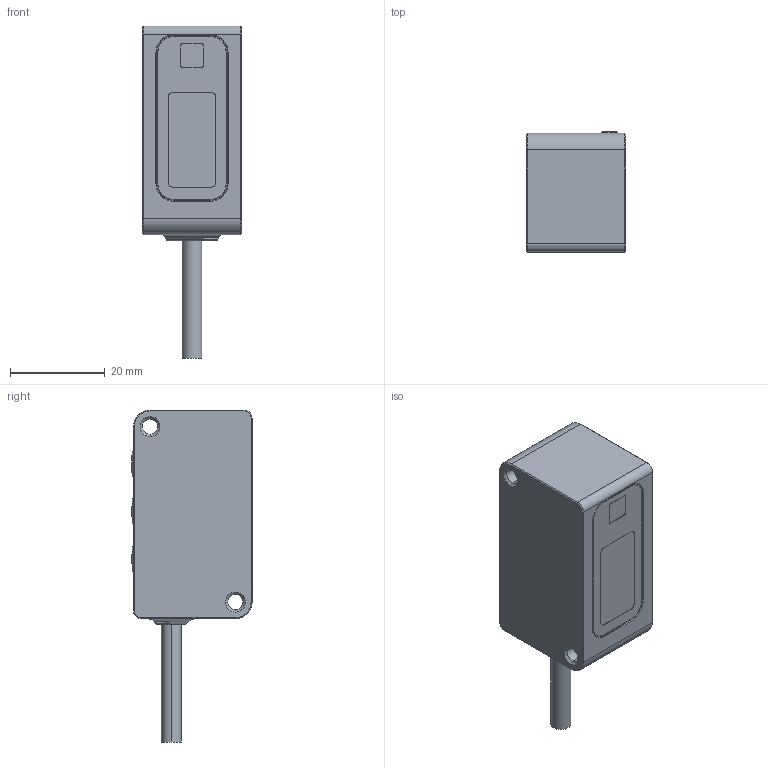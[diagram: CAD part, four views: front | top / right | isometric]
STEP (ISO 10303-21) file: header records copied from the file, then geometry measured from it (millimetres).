
FILE_DESCRIPTION(/* description */ (''),/* implementation_level */ '2;1');
FILE_NAME(/* name */ 'SDG',/* time_stamp */ '2025-11-13T13:42:04+08:00',/* author */ (''),/* organization */ (''),/* preprocessor_version */ 'ST-DEVELOPER v19.2',/* originating_system */ 'Rhino 8.5',/* authorisation */ '');
FILE_SCHEMA (('CONFIG_CONTROL_DESIGN'));
Length unit declared in the file: millimetre
Products named in the file (1): Document
Bounding box: 21 x 25.3 x 70 mm (x, y, z)
Volume: 15582 mm3; surface area: 11286.2 mm2
Topology: 24 solids, 37 shells, 1013 faces, 2684 edges, 1734 vertices
Faces by surface type: plane 459, cylinder 400, bspline 154
Entity records: 37248 total; most frequent: CARTESIAN_POINT 16871, ORIENTED_EDGE 5216, EDGE_CURVE 2670, B_SPLINE_CURVE_WITH_KNOTS 2116, DIRECTION 1967, VERTEX_POINT 1734, AXIS2_PLACEMENT_3D 1413, EDGE_LOOP 1062
